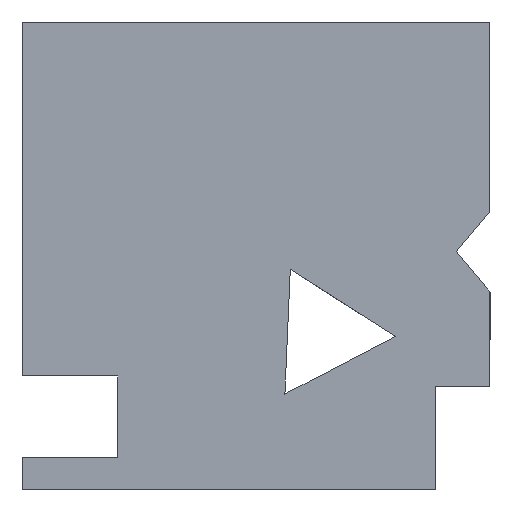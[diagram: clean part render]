
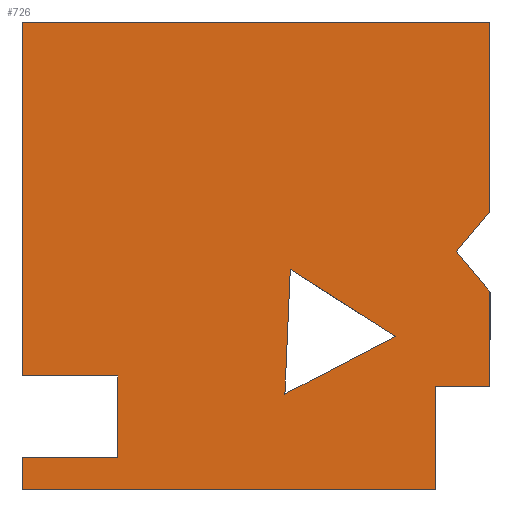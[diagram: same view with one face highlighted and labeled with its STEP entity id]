
A CAD part, left-side view. The second image highlights one B-rep face of the part: STEP entity #726.
In plain terms, the highlighted planar face has unit normal (-1, 0, 0).
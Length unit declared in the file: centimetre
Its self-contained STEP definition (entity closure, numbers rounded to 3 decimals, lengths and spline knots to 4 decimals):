
#4 = DIRECTION ( 'NONE',  ( 0., 0., -1. ) ) ;
#9 = CARTESIAN_POINT ( 'NONE',  ( 0., 1000., 1000. ) ) ;
#33 = LINE ( 'NONE', #341, #721 ) ;
#36 = VECTOR ( 'NONE', #285, 100. ) ;
#40 = VERTEX_POINT ( 'NONE', #871 ) ;
#44 = DIRECTION ( 'NONE',  ( 0., 1., 0. ) ) ;
#48 = EDGE_CURVE ( 'NONE', #729, #404, #51, .T. ) ;
#51 = LINE ( 'NONE', #355, #36 ) ;
#53 = VERTEX_POINT ( 'NONE', #876 ) ;
#55 = CARTESIAN_POINT ( 'NONE',  ( 0., 426.7363, 471.4782 ) ) ;
#56 = CARTESIAN_POINT ( 'NONE',  ( 0., 1000., 1000. ) ) ;
#62 = VECTOR ( 'NONE', #986, 100. ) ;
#65 = LINE ( 'NONE', #387, #62 ) ;
#67 = VECTOR ( 'NONE', #145, 100. ) ;
#78 = VERTEX_POINT ( 'NONE', #925 ) ;
#80 = CARTESIAN_POINT ( 'NONE',  ( 0., 1000., 1000. ) ) ;
#85 = CARTESIAN_POINT ( 'NONE',  ( 0., 795.8733, 69.3372 ) ) ;
#93 = DIRECTION ( 'NONE',  ( 0., 0.844, 0.537 ) ) ;
#94 = DIRECTION ( 'NONE',  ( 0., 0.043, -0.999 ) ) ;
#96 = VECTOR ( 'NONE', #824, 100. ) ;
#104 = CARTESIAN_POINT ( 'NONE',  ( 0., 1000., 69.3372 ) ) ;
#108 = VERTEX_POINT ( 'NONE', #403 ) ;
#115 = EDGE_CURVE ( 'NONE', #404, #415, #938, .T. ) ;
#129 = VECTOR ( 'NONE', #93, 100. ) ;
#131 = FACE_BOUND ( 'NONE', #813, .T. ) ;
#144 = CARTESIAN_POINT ( 'NONE',  ( 0., 1000., 1000. ) ) ;
#145 = DIRECTION ( 'NONE',  ( 0., 0., -1. ) ) ;
#149 = CARTESIAN_POINT ( 'NONE',  ( 0., 438.2933, 204.952 ) ) ;
#162 = EDGE_CURVE ( 'NONE', #700, #916, #565, .T. ) ;
#181 = CARTESIAN_POINT ( 'NONE',  ( 0., 426.7363, 471.4782 ) ) ;
#199 = LINE ( 'NONE', #777, #129 ) ;
#213 = CARTESIAN_POINT ( 'NONE',  ( 0., 0., 220.4861 ) ) ;
#217 = CARTESIAN_POINT ( 'NONE',  ( 0., 72.2935, 509.3126 ) ) ;
#224 = EDGE_CURVE ( 'NONE', #916, #78, #420, .T. ) ;
#237 = CARTESIAN_POINT ( 'NONE',  ( 0., 0., 220.4861 ) ) ;
#238 = ORIENTED_EDGE ( 'NONE', *, *, #162, .F. ) ;
#249 = VERTEX_POINT ( 'NONE', #213 ) ;
#270 = EDGE_CURVE ( 'NONE', #990, #108, #599, .T. ) ;
#272 = ORIENTED_EDGE ( 'NONE', *, *, #823, .T. ) ;
#277 = DIRECTION ( 'NONE',  ( 0., 0., -1. ) ) ;
#285 = DIRECTION ( 'NONE',  ( 0., -1., 0. ) ) ;
#286 = ORIENTED_EDGE ( 'NONE', *, *, #224, .F. ) ;
#290 = DIRECTION ( 'NONE',  ( 0., -0.642, 0.767 ) ) ;
#325 = CARTESIAN_POINT ( 'NONE',  ( 0., 0., 1000. ) ) ;
#330 = EDGE_CURVE ( 'NONE', #984, #729, #814, .T. ) ;
#341 = CARTESIAN_POINT ( 'NONE',  ( 0., 0., 1000. ) ) ;
#355 = CARTESIAN_POINT ( 'NONE',  ( 0., 1000., 0. ) ) ;
#380 = VECTOR ( 'NONE', #546, 100. ) ;
#382 = DIRECTION ( 'NONE',  ( 1., 0., 0. ) ) ;
#387 = CARTESIAN_POINT ( 'NONE',  ( 0., 0., 423.0312 ) ) ;
#389 = LINE ( 'NONE', #80, #924 ) ;
#393 = LINE ( 'NONE', #325, #733 ) ;
#398 = ORIENTED_EDGE ( 'NONE', *, *, #658, .T. ) ;
#401 = DIRECTION ( 'NONE',  ( 0., -1., 0. ) ) ;
#403 = CARTESIAN_POINT ( 'NONE',  ( 0., 0., 595.594 ) ) ;
#404 = VERTEX_POINT ( 'NONE', #762 ) ;
#406 = EDGE_CURVE ( 'NONE', #40, #249, #393, .T. ) ;
#412 = EDGE_CURVE ( 'NONE', #415, #249, #922, .T. ) ;
#414 = DIRECTION ( 'NONE',  ( 0., 0., 1. ) ) ;
#415 = VERTEX_POINT ( 'NONE', #836 ) ;
#420 = LINE ( 'NONE', #499, #545 ) ;
#422 = CARTESIAN_POINT ( 'NONE',  ( 0., 72.2935, 509.3126 ) ) ;
#434 = ORIENTED_EDGE ( 'NONE', *, *, #638, .F. ) ;
#450 = CARTESIAN_POINT ( 'NONE',  ( 0., 795.8733, 69.3372 ) ) ;
#454 = DIRECTION ( 'NONE',  ( 0., 0., -1. ) ) ;
#456 = ORIENTED_EDGE ( 'NONE', *, *, #406, .F. ) ;
#471 = ORIENTED_EDGE ( 'NONE', *, *, #893, .T. ) ;
#472 = CARTESIAN_POINT ( 'NONE',  ( 0., 1000., 1000. ) ) ;
#478 = CARTESIAN_POINT ( 'NONE',  ( 0., 0., 1000. ) ) ;
#483 = ORIENTED_EDGE ( 'NONE', *, *, #48, .T. ) ;
#488 = DIRECTION ( 'NONE',  ( 0., -0.887, 0.462 ) ) ;
#489 = ORIENTED_EDGE ( 'NONE', *, *, #626, .F. ) ;
#492 = EDGE_CURVE ( 'NONE', #821, #889, #389, .T. ) ;
#496 = ORIENTED_EDGE ( 'NONE', *, *, #330, .T. ) ;
#499 = CARTESIAN_POINT ( 'NONE',  ( 0., 438.2933, 204.952 ) ) ;
#508 = VECTOR ( 'NONE', #525, 100. ) ;
#516 = LINE ( 'NONE', #805, #508 ) ;
#525 = DIRECTION ( 'NONE',  ( 0., -1., 0. ) ) ;
#545 = VECTOR ( 'NONE', #488, 100. ) ;
#546 = DIRECTION ( 'NONE',  ( 0., -1., 0. ) ) ;
#560 = CARTESIAN_POINT ( 'NONE',  ( 0., 117.3288, 0. ) ) ;
#565 = LINE ( 'NONE', #181, #963 ) ;
#599 = LINE ( 'NONE', #217, #934 ) ;
#626 = EDGE_CURVE ( 'NONE', #889, #108, #33, .T. ) ;
#631 = DIRECTION ( 'NONE',  ( 0., 0., -1. ) ) ;
#637 = ORIENTED_EDGE ( 'NONE', *, *, #270, .T. ) ;
#638 = EDGE_CURVE ( 'NONE', #78, #700, #199, .T. ) ;
#646 = VERTEX_POINT ( 'NONE', #797 ) ;
#658 = EDGE_CURVE ( 'NONE', #53, #984, #674, .T. ) ;
#665 = CARTESIAN_POINT ( 'NONE',  ( 0., 1000., 0. ) ) ;
#674 = LINE ( 'NONE', #450, #957 ) ;
#687 = CARTESIAN_POINT ( 'NONE',  ( 0., 795.8733, 243.5956 ) ) ;
#690 = ORIENTED_EDGE ( 'NONE', *, *, #412, .T. ) ;
#697 = LINE ( 'NONE', #9, #975 ) ;
#700 = VERTEX_POINT ( 'NONE', #55 ) ;
#721 = VECTOR ( 'NONE', #277, 100. ) ;
#726 = ADVANCED_FACE ( 'NONE', ( #131, #730 ), #898, .F. ) ;
#729 = VERTEX_POINT ( 'NONE', #665 ) ;
#730 = FACE_OUTER_BOUND ( 'NONE', #912, .T. ) ;
#733 = VECTOR ( 'NONE', #631, 100. ) ;
#739 = ORIENTED_EDGE ( 'NONE', *, *, #770, .T. ) ;
#762 = CARTESIAN_POINT ( 'NONE',  ( 0., 117.3288, 0. ) ) ;
#770 = EDGE_CURVE ( 'NONE', #646, #785, #516, .T. ) ;
#772 = LINE ( 'NONE', #85, #96 ) ;
#777 = CARTESIAN_POINT ( 'NONE',  ( 0., 201.6963, 328.2064 ) ) ;
#779 = AXIS2_PLACEMENT_3D ( 'NONE', #144, #382, #454 ) ;
#785 = VERTEX_POINT ( 'NONE', #687 ) ;
#797 = CARTESIAN_POINT ( 'NONE',  ( 0., 1000., 243.5956 ) ) ;
#798 = ORIENTED_EDGE ( 'NONE', *, *, #492, .F. ) ;
#805 = CARTESIAN_POINT ( 'NONE',  ( 0., 795.8733, 243.5956 ) ) ;
#813 = EDGE_LOOP ( 'NONE', ( #286, #238, #434 ) ) ;
#814 = LINE ( 'NONE', #56, #67 ) ;
#821 = VERTEX_POINT ( 'NONE', #472 ) ;
#823 = EDGE_CURVE ( 'NONE', #40, #990, #65, .T. ) ;
#824 = DIRECTION ( 'NONE',  ( 0., 0., -1. ) ) ;
#833 = VECTOR ( 'NONE', #414, 100. ) ;
#836 = CARTESIAN_POINT ( 'NONE',  ( 0., 117.3288, 220.4861 ) ) ;
#871 = CARTESIAN_POINT ( 'NONE',  ( 0., 0., 423.0312 ) ) ;
#876 = CARTESIAN_POINT ( 'NONE',  ( 0., 795.8733, 69.3372 ) ) ;
#889 = VERTEX_POINT ( 'NONE', #478 ) ;
#893 = EDGE_CURVE ( 'NONE', #821, #646, #697, .T. ) ;
#898 = PLANE ( 'NONE',  #779 ) ;
#905 = EDGE_CURVE ( 'NONE', #785, #53, #772, .T. ) ;
#912 = EDGE_LOOP ( 'NONE', ( #920, #690, #456, #272, #637, #489, #798, #471, #739, #933, #398, #496, #483 ) ) ;
#916 = VERTEX_POINT ( 'NONE', #149 ) ;
#920 = ORIENTED_EDGE ( 'NONE', *, *, #115, .T. ) ;
#922 = LINE ( 'NONE', #237, #380 ) ;
#924 = VECTOR ( 'NONE', #401, 100. ) ;
#925 = CARTESIAN_POINT ( 'NONE',  ( 0., 201.6963, 328.2064 ) ) ;
#933 = ORIENTED_EDGE ( 'NONE', *, *, #905, .T. ) ;
#934 = VECTOR ( 'NONE', #290, 100. ) ;
#938 = LINE ( 'NONE', #560, #833 ) ;
#957 = VECTOR ( 'NONE', #44, 100. ) ;
#963 = VECTOR ( 'NONE', #94, 100. ) ;
#975 = VECTOR ( 'NONE', #4, 100. ) ;
#984 = VERTEX_POINT ( 'NONE', #104 ) ;
#986 = DIRECTION ( 'NONE',  ( 0., 0.642, 0.767 ) ) ;
#990 = VERTEX_POINT ( 'NONE', #422 ) ;
